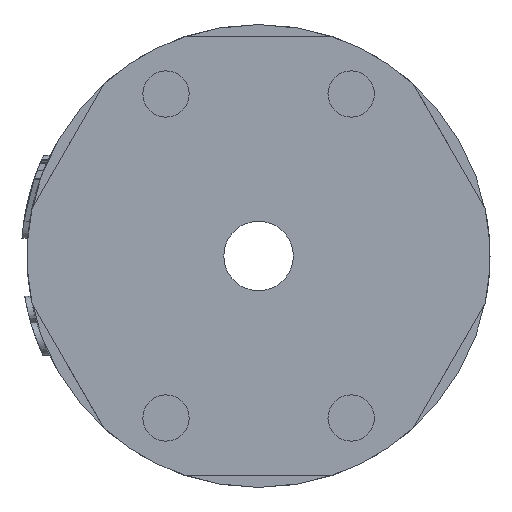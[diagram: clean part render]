
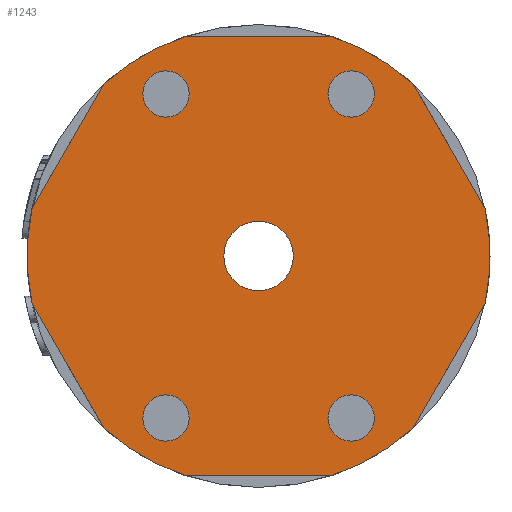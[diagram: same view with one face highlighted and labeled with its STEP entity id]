
A CAD part, front view. The second image highlights one B-rep face of the part: STEP entity #1243.
In plain terms, the highlighted planar face has unit normal (0, -1, 0).
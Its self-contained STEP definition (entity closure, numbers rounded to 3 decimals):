
#195=FACE_BOUND('',#2423,.T.);
#196=FACE_BOUND('',#2424,.T.);
#197=FACE_BOUND('',#2425,.T.);
#198=FACE_BOUND('',#2426,.T.);
#199=FACE_BOUND('',#2427,.T.);
#200=FACE_BOUND('',#2428,.T.);
#384=CIRCLE('',#7296,20.);
#385=CIRCLE('',#7297,20.);
#386=CIRCLE('',#7298,20.);
#387=CIRCLE('',#7299,20.);
#388=CIRCLE('',#7300,20.);
#389=CIRCLE('',#7301,20.);
#390=CIRCLE('',#7302,3.);
#391=CIRCLE('',#7303,2.);
#392=CIRCLE('',#7304,2.);
#393=CIRCLE('',#7305,2.);
#394=CIRCLE('',#7306,2.);
#742=PLANE('',#7307);
#918=LINE('',#26695,#1683);
#919=LINE('',#26699,#1684);
#920=LINE('',#26703,#1685);
#921=LINE('',#26707,#1686);
#922=LINE('',#26711,#1687);
#923=LINE('',#26715,#1688);
#1243=ADVANCED_FACE('',(#195,#196,#197,#198,#199,#200),#742,.F.);
#1683=VECTOR('',#8365,1.);
#1684=VECTOR('',#8368,1.);
#1685=VECTOR('',#8371,1.);
#1686=VECTOR('',#8374,1.);
#1687=VECTOR('',#8377,1.);
#1688=VECTOR('',#8380,1.);
#2423=EDGE_LOOP('',(#3965,#3966,#3967,#3968,#3969,#3970,#3971,#3972,#3973,
#3974,#3975,#3976));
#2424=EDGE_LOOP('',(#3977));
#2425=EDGE_LOOP('',(#3978));
#2426=EDGE_LOOP('',(#3979));
#2427=EDGE_LOOP('',(#3980));
#2428=EDGE_LOOP('',(#3981));
#3965=ORIENTED_EDGE('',*,*,#6104,.T.);
#3966=ORIENTED_EDGE('',*,*,#6105,.T.);
#3967=ORIENTED_EDGE('',*,*,#6106,.T.);
#3968=ORIENTED_EDGE('',*,*,#6107,.T.);
#3969=ORIENTED_EDGE('',*,*,#6108,.T.);
#3970=ORIENTED_EDGE('',*,*,#6109,.T.);
#3971=ORIENTED_EDGE('',*,*,#6110,.T.);
#3972=ORIENTED_EDGE('',*,*,#6111,.T.);
#3973=ORIENTED_EDGE('',*,*,#6112,.T.);
#3974=ORIENTED_EDGE('',*,*,#6113,.T.);
#3975=ORIENTED_EDGE('',*,*,#6114,.T.);
#3976=ORIENTED_EDGE('',*,*,#6115,.T.);
#3977=ORIENTED_EDGE('',*,*,#6116,.F.);
#3978=ORIENTED_EDGE('',*,*,#6117,.F.);
#3979=ORIENTED_EDGE('',*,*,#6118,.F.);
#3980=ORIENTED_EDGE('',*,*,#6119,.F.);
#3981=ORIENTED_EDGE('',*,*,#6120,.F.);
#5168=VERTEX_POINT('',#26693);
#5169=VERTEX_POINT('',#26694);
#5170=VERTEX_POINT('',#26696);
#5171=VERTEX_POINT('',#26698);
#5172=VERTEX_POINT('',#26700);
#5173=VERTEX_POINT('',#26702);
#5174=VERTEX_POINT('',#26704);
#5175=VERTEX_POINT('',#26706);
#5176=VERTEX_POINT('',#26708);
#5177=VERTEX_POINT('',#26710);
#5178=VERTEX_POINT('',#26712);
#5179=VERTEX_POINT('',#26714);
#5180=VERTEX_POINT('',#26717);
#5181=VERTEX_POINT('',#26719);
#5182=VERTEX_POINT('',#26721);
#5183=VERTEX_POINT('',#26723);
#5184=VERTEX_POINT('',#26725);
#6104=EDGE_CURVE('',#5168,#5169,#384,.T.);
#6105=EDGE_CURVE('',#5169,#5170,#918,.T.);
#6106=EDGE_CURVE('',#5170,#5171,#385,.T.);
#6107=EDGE_CURVE('',#5171,#5172,#919,.T.);
#6108=EDGE_CURVE('',#5172,#5173,#386,.T.);
#6109=EDGE_CURVE('',#5173,#5174,#920,.T.);
#6110=EDGE_CURVE('',#5174,#5175,#387,.T.);
#6111=EDGE_CURVE('',#5175,#5176,#921,.T.);
#6112=EDGE_CURVE('',#5176,#5177,#388,.T.);
#6113=EDGE_CURVE('',#5177,#5178,#922,.T.);
#6114=EDGE_CURVE('',#5178,#5179,#389,.T.);
#6115=EDGE_CURVE('',#5179,#5168,#923,.T.);
#6116=EDGE_CURVE('',#5180,#5180,#390,.T.);
#6117=EDGE_CURVE('',#5181,#5181,#391,.T.);
#6118=EDGE_CURVE('',#5182,#5182,#392,.T.);
#6119=EDGE_CURVE('',#5183,#5183,#393,.T.);
#6120=EDGE_CURVE('',#5184,#5184,#394,.T.);
#7296=AXIS2_PLACEMENT_3D('',#26692,#8363,#8364);
#7297=AXIS2_PLACEMENT_3D('',#26697,#8366,#8367);
#7298=AXIS2_PLACEMENT_3D('',#26701,#8369,#8370);
#7299=AXIS2_PLACEMENT_3D('',#26705,#8372,#8373);
#7300=AXIS2_PLACEMENT_3D('',#26709,#8375,#8376);
#7301=AXIS2_PLACEMENT_3D('',#26713,#8378,#8379);
#7302=AXIS2_PLACEMENT_3D('',#26716,#8381,#8382);
#7303=AXIS2_PLACEMENT_3D('',#26718,#8383,#8384);
#7304=AXIS2_PLACEMENT_3D('',#26720,#8385,#8386);
#7305=AXIS2_PLACEMENT_3D('',#26722,#8387,#8388);
#7306=AXIS2_PLACEMENT_3D('',#26724,#8389,#8390);
#7307=AXIS2_PLACEMENT_3D('',#26726,#8391,#8392);
#8363=DIRECTION('',(0.,-1.,0.));
#8364=DIRECTION('',(0.979,0.,-0.205));
#8365=DIRECTION('',(-0.5,0.,0.866));
#8366=DIRECTION('',(0.,-1.,0.));
#8367=DIRECTION('',(0.667,0.,0.745));
#8368=DIRECTION('',(-1.,0.,0.));
#8369=DIRECTION('',(0.,-1.,0.));
#8370=DIRECTION('',(-0.312,0.,0.95));
#8371=DIRECTION('',(-0.5,0.,-0.866));
#8372=DIRECTION('',(0.,-1.,0.));
#8373=DIRECTION('',(-0.979,0.,0.205));
#8374=DIRECTION('',(0.5,0.,-0.866));
#8375=DIRECTION('',(0.,-1.,0.));
#8376=DIRECTION('',(-0.667,0.,-0.745));
#8377=DIRECTION('',(1.,0.,0.));
#8378=DIRECTION('',(0.,-1.,0.));
#8379=DIRECTION('',(0.312,0.,-0.95));
#8380=DIRECTION('',(0.5,0.,0.866));
#8381=DIRECTION('',(0.,-1.,0.));
#8382=DIRECTION('',(-1.,0.,0.));
#8383=DIRECTION('',(0.,-1.,0.));
#8384=DIRECTION('',(1.,0.,0.));
#8385=DIRECTION('',(0.,-1.,0.));
#8386=DIRECTION('',(1.,0.,0.));
#8387=DIRECTION('',(0.,-1.,0.));
#8388=DIRECTION('',(1.,0.,0.));
#8389=DIRECTION('',(0.,-1.,0.));
#8390=DIRECTION('',(1.,0.,0.));
#8391=DIRECTION('',(0.,1.,0.));
#8392=DIRECTION('',(-1.,0.,0.));
#26692=CARTESIAN_POINT('',(0.,0.,0.));
#26693=CARTESIAN_POINT('',(19.577,0.,-4.092));
#26694=CARTESIAN_POINT('',(19.577,0.,4.092));
#26695=CARTESIAN_POINT('',(19.577,0.,4.092));
#26696=CARTESIAN_POINT('',(13.332,0.,14.908));
#26697=CARTESIAN_POINT('',(0.,0.,0.));
#26698=CARTESIAN_POINT('',(6.245,0.,19.));
#26699=CARTESIAN_POINT('',(6.245,0.,19.));
#26700=CARTESIAN_POINT('',(-6.245,0.,19.));
#26701=CARTESIAN_POINT('',(0.,0.,0.));
#26702=CARTESIAN_POINT('',(-13.332,0.,14.908));
#26703=CARTESIAN_POINT('',(-13.332,0.,14.908));
#26704=CARTESIAN_POINT('',(-19.577,0.,4.092));
#26705=CARTESIAN_POINT('',(0.,0.,0.));
#26706=CARTESIAN_POINT('',(-19.577,0.,-4.092));
#26707=CARTESIAN_POINT('',(-19.577,0.,-4.092));
#26708=CARTESIAN_POINT('',(-13.332,0.,-14.908));
#26709=CARTESIAN_POINT('',(0.,0.,0.));
#26710=CARTESIAN_POINT('',(-6.245,0.,-19.));
#26711=CARTESIAN_POINT('',(-6.245,0.,-19.));
#26712=CARTESIAN_POINT('',(6.245,0.,-19.));
#26713=CARTESIAN_POINT('',(0.,0.,0.));
#26714=CARTESIAN_POINT('',(13.332,0.,-14.908));
#26715=CARTESIAN_POINT('',(13.332,0.,-14.908));
#26716=CARTESIAN_POINT('',(0.,0.,0.));
#26717=CARTESIAN_POINT('',(-3.,0.,0.));
#26718=CARTESIAN_POINT('',(-8.,0.,14.));
#26719=CARTESIAN_POINT('',(-6.,0.,14.));
#26720=CARTESIAN_POINT('',(8.,0.,14.));
#26721=CARTESIAN_POINT('',(10.,0.,14.));
#26722=CARTESIAN_POINT('',(-8.,0.,-14.));
#26723=CARTESIAN_POINT('',(-6.,0.,-14.));
#26724=CARTESIAN_POINT('',(8.,0.,-14.));
#26725=CARTESIAN_POINT('',(10.,0.,-14.));
#26726=CARTESIAN_POINT('',(0.,0.,0.));
